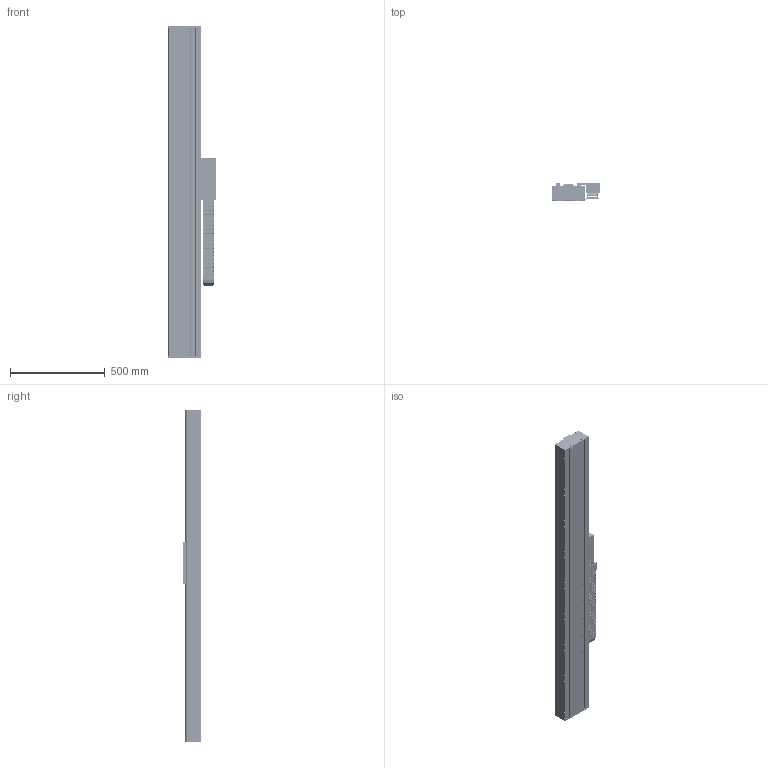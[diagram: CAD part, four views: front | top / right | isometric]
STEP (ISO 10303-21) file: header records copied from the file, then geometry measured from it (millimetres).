
FILE_DESCRIPTION (( 'STEP AP203' ), '1' );
FILE_NAME ('STF35120M-xC1B-Bxx.STEP', '2007-09-17T21:05:16', ( 'Yaskawa' ), ( 'Yaskawa' ), 'SwSTEP 2.0', 'SolidWorks 2007', '' );
FILE_SCHEMA (( 'CONFIG_CONTROL_DESIGN' ));
Products named in the file (66): SGLFM-35756AC; RGH22B; STF35120 Complete Carriage; STF35-120 SSR15W Carriage-R2; STF2035-004 Flag; SSR15W Block; STCM-004 Cable Assembly Side; STCM-003 Cable Assembly Bottom; STCM-005-R1 Cable Assembly Cover; B18.3.1M - 6 x 1.0 x 25 Hex SHCS -- 25CHX_B18.3.1M - 6 x 1.0 x 25 Hex SHCS -- 25CHX; B18.3.4M - 3 x 0.5 x 12 SBHCS --N_B18.3.4M - 3 x 0.5 x 12 SBHCS --N; 07.50.028.0_97; 07.50.028.0_96; 07.50.028.0_102; 07.50.028.0_101; 07.50.028.0_103; 07.50.028.0_109; 07.50.028.0_110; 07.50.028.0_111; 07.50.028.0_118; 07.50.028.0_119; 07.50.028.0_105; STF35120M-xC1B-Bxx; STF35BM Base_STF35120-012; STF35120 Base_STF35BM-012; SGLFM-35324AC; SGLFM-35540AC; End Stop with Bumper; STF2035-007 End Stop; Bumper-Medium; B18.3.1M - 6 x 1.0 x 16 Hex SHCS -- 16NHX_B18.3.1M - 6 x 1.0 x 16 Hex SHCS -- 16NHX; Mult-SR15+580LY_012; STF2035-001C F35-120 Carriage; STF2035-002A-R2 F2035 Carriage Horn; STF2035-005-R2 Cable Router; STF2035-003 Renishaw Encoder Mount; SGLFW-35120AP; STCM-R1; STCM-001-R2 Cable Bracket; STCM-002-R2 Cable Assembly Front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
Assembly tree (129 placements, depth 4):
  STF35120M-xC1B-Bxx
    STF35BM Base_STF35120-012
      SGLFM-35540AC
      STF35120 Base_STF35BM-012
      End Stop with Bumper  x4
        STF2035-007 End Stop
        B18.3.1M - 6 x 1.0 x 16 Hex SHCS -- 16NHX_B18.3.1M - 6 x 1.0 x 16 Hex SHCS -- 16NHX
        Bumper-Medium
      Mult-SR15+580LY_012  x2
      SGLFM-35324AC
      SGLFM-35756AC
    STF2035-010-02 Side Cover 2_M  x2
    STF2035-006 Endplate  x2
    STF35120 Complete Carriage
      B18.3.1M - 4 x 0.7 x 12 Hex SHCS -- 12CHX_B18.3.1M - 4 x 0.7 x 12 Hex SHCS -- 12CHX  x18
      B18.3.4M - 3 x 0.5 x 12 SBHCS --N_B18.3.4M - 3 x 0.5 x 12 SBHCS --N  x3
      B18.3.1M - 6 x 1.0 x 25 Hex SHCS -- 25CHX_B18.3.1M - 6 x 1.0 x 25 Hex SHCS -- 25CHX  x6
      STF35-120 SSR15W Carriage-R2
        SSR15W Block  x4
        SGLFW-35120AP
        STF2035-004 Flag
        STF2035-002A-R2 F2035 Carriage Horn  x2
        STF2035-005-R2 Cable Router
        STF2035-001C F35-120 Carriage
        STF2035-003 Renishaw Encoder Mount
        RGH22B
      STCM-R1
        B18.3.5M - 3 x 0.5 x 6 Socket FCHS  -- 6N_B18.3.5M - 3 x 0.5 x 6 Socket FCHS  -- 6N  x6
        B18.3.4M - 3 x 0.5 x 12 SBHCS --N_B18.3.4M - 3 x 0.5 x 12 SBHCS --N  x4
        STCM-001-R2 Cable Bracket
        STCM-005-R1 Cable Assembly Cover
        STCM-003 Cable Assembly Bottom
        STCM-004 Cable Assembly Side
        Serial Converter
        STCM-006-R1 Upper E-chain Bracket
        STCM-002-R2 Cable Assembly Front
    STF20120M
      07.50.028.0_98
      07.50.028.0_104
      07.50.028.0_111  x12
      07.50.028.0_118
      07.50.028.0_119
      07.50.028.0_123
      07.50.028.0_105  x11
      07.50.028.0_97
      07.50.028.0_102
      07.50.028.0_99
      07.50.028.0_122
      07.50.028.0_115
      07.50.028.0_114
      07.50.028.0_120
      07.50.028.0_121
      07.50.028.0_117
      07.50.028.0_108
      07.50.028.0_110
      07.50.028.0_112
      07.50.028.0_96
      07.50.028.0_100
      07.50.028.0_101
      07.50.028.0_109
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Bounding box: 254.2 x 94.7 x 1749.05 mm (x, y, z)
Volume: 9920236.3 mm3; surface area: 3385525.8 mm2
Topology: 176 solids, 176 shells, 8385 faces, 21350 edges, 13472 vertices
Faces by surface type: plane 4261, cylinder 3208, cone 772, torus 86, bspline 44, sphere 14
Entity records: 159181 total; most frequent: DIRECTION 26811, CARTESIAN_POINT 26178, ORIENTED_EDGE 24766, EDGE_CURVE 12383, AXIS2_PLACEMENT_3D 9389, VERTEX_POINT 8095, VECTOR 8033, LINE 8033
